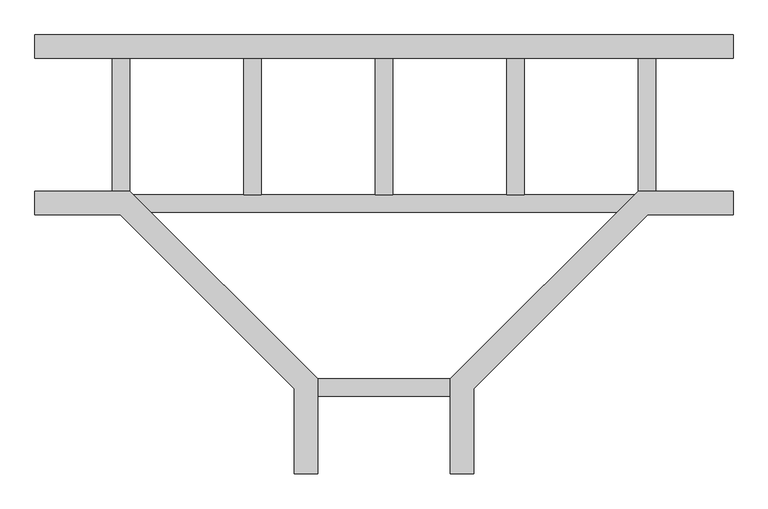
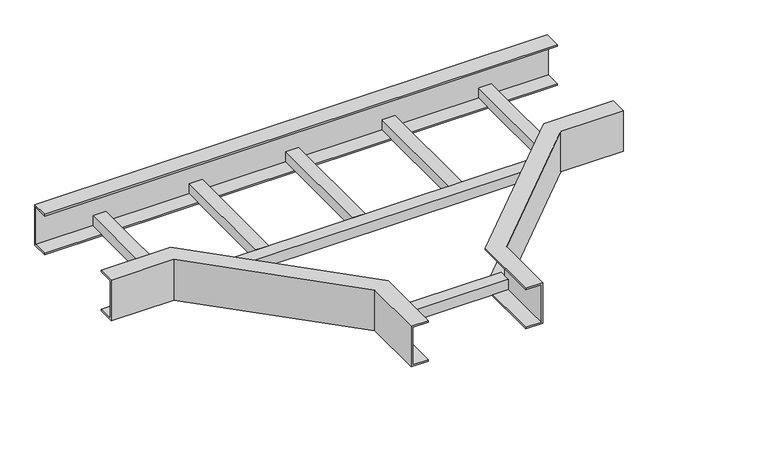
"""IFC4 building model written with IfcOpenShell, lengths in millimetres: cable carrier fitting geometry, TEEFV_Horizontal Tee-Fibertrav : Fibertrav TEEFV-12."""

from ifc_helpers import new_model, si_unit, frame, origin, place, context, project, spatial, polyline, outline, extrude, faceted_brep, source, transform, mapped, element, save


def cable_carrier_fitting_75f20afa(model_context):
    return source(origin(), model_context, "Body", "SolidModel", [
        faceted_brep([(-607.2, -156.4, -50.8), (-607.2, -156.4, 50.8), (-607.2, -115.4, 50.8), (-607.2, -115.4, 46.8), (-607.2, -152.4, 46.8), (-607.2, -152.4, -46.8), (-607.2, -115.4, -46.8), (-607.2, -115.4, -50.8), (-156.4, -607.2, -50.8), (-115.4, -607.2, -50.8), (-115.4, -607.2, -46.8), (-152.4, -607.2, -46.8), (-152.4, -607.2, 46.8), (-115.4, -607.2, 46.8), (-115.4, -607.2, 50.8), (-156.4, -607.2, 50.8), (-458.8568542, -156.4, 50.8), (-156.4, -458.8568542, 50.8), (-115.4, -441.8740982, 50.8), (-441.8740982, -115.4, 50.8), (-441.8740982, -115.4, 46.8), (-115.4, -441.8740982, 46.8), (-152.4, -457.2, 46.8), (-457.2, -152.4, 46.8), (-457.2, -152.4, -46.8), (-152.4, -457.2, -46.8), (-115.4, -441.8740982, -46.8), (-441.8740982, -115.4, -46.8), (-441.8740982, -115.4, -50.8), (-115.4, -441.8740982, -50.8), (-156.4, -458.8568542, -50.8), (-458.8568542, -156.4, -50.8)], [[[0, 1, 2, 3, 4, 5, 6, 7]], [[8, 9, 10, 11, 12, 13, 14, 15]], [[2, 1, 16, 17, 15, 14, 18, 19]], [[3, 2, 19, 20]], [[4, 3, 20, 21, 13, 12, 22, 23]], [[5, 4, 23, 24]], [[6, 5, 24, 25, 11, 10, 26, 27]], [[7, 6, 27, 28]], [[0, 7, 28, 29, 9, 8, 30, 31]], [[1, 0, 31, 16]], [[21, 18, 14, 13]], [[25, 22, 12, 11]], [[29, 26, 10, 9]], [[17, 30, 8, 15]], [[16, 31, 30, 17]], [[20, 19, 18, 21]], [[24, 23, 22, 25]], [[28, 27, 26, 29]]]),
        faceted_brep([(156.4, -607.2, -50.8), (156.4, -607.2, 50.8), (115.4, -607.2, 50.8), (115.4, -607.2, 46.8), (152.4, -607.2, 46.8), (152.4, -607.2, -46.8), (115.4, -607.2, -46.8), (115.4, -607.2, -50.8), (607.2, -156.4, -50.8), (607.2, -115.4, -50.8), (607.2, -115.4, -46.8), (607.2, -152.4, -46.8), (607.2, -152.4, 46.8), (607.2, -115.4, 46.8), (607.2, -115.4, 50.8), (607.2, -156.4, 50.8), (156.4, -458.8568542, 50.8), (458.8568542, -156.4, 50.8), (441.8740982, -115.4, 50.8), (115.4, -441.8740982, 50.8), (115.4, -441.8740982, 46.8), (441.8740982, -115.4, 46.8), (457.2, -152.4, 46.8), (152.4, -457.2, 46.8), (152.4, -457.2, -46.8), (457.2, -152.4, -46.8), (441.8740982, -115.4, -46.8), (115.4, -441.8740982, -46.8), (115.4, -441.8740982, -50.8), (441.8740982, -115.4, -50.8), (458.8568542, -156.4, -50.8), (156.4, -458.8568542, -50.8)], [[[0, 1, 2, 3, 4, 5, 6, 7]], [[8, 9, 10, 11, 12, 13, 14, 15]], [[2, 1, 16, 17, 15, 14, 18, 19]], [[3, 2, 19, 20]], [[4, 3, 20, 21, 13, 12, 22, 23]], [[5, 4, 23, 24]], [[6, 5, 24, 25, 11, 10, 26, 27]], [[7, 6, 27, 28]], [[0, 7, 28, 29, 9, 8, 30, 31]], [[1, 0, 31, 16]], [[21, 18, 14, 13]], [[25, 22, 12, 11]], [[29, 26, 10, 9]], [[17, 30, 8, 15]], [[16, 31, 30, 17]], [[20, 19, 18, 21]], [[24, 23, 22, 25]], [[28, 27, 26, 29]]]),
        extrude(outline(polyline([(156.4, -50.8), (115.4, -50.8), (115.4, -46.8), (152.4, -46.8), (152.4, 46.8), (115.4, 46.8), (115.4, 50.8), (156.4, 50.8), (156.4, -50.8)])), frame((-607.2, 0.0, 0.0), z_axis=(1.0, 0.0, 0.0), x_axis=(0.0, 1.0, 0.0)), (0.0, 0.0, 1.0), 1214.4),
        extrude(outline(polyline([(152.4, -472.45), (-152.4, -472.45), (-152.4, -441.95), (152.4, -441.95), (152.4, -472.45)])), frame((0.0, 0.0, -46.8), z_axis=(0.0, 0.0, 1.0), x_axis=(1.0, 0.0, 0.0)), (0.0, 0.0, 1.0), 25.4),
        extrude(outline(polyline([(472.45, 152.4), (472.45, -152.4), (441.95, -152.4), (441.95, 152.4), (472.45, 152.4)])), frame((0.0, 0.0, -46.8), z_axis=(0.0, 0.0, 1.0), x_axis=(1.0, 0.0, 0.0)), (0.0, 0.0, 1.0), 25.4),
        extrude(outline(polyline([(243.85, 152.4), (243.85, -121.9), (213.35, -121.9), (213.35, 152.4), (243.85, 152.4)])), frame((0.0, 0.0, -46.8), z_axis=(0.0, 0.0, 1.0), x_axis=(1.0, 0.0, 0.0)), (0.0, 0.0, 1.0), 25.4),
        extrude(outline(polyline([(15.25, 152.4), (15.25, -121.9), (-15.25, -121.9), (-15.25, 152.4), (15.25, 152.4)])), frame((0.0, 0.0, -46.8), z_axis=(0.0, 0.0, 1.0), x_axis=(1.0, 0.0, 0.0)), (0.0, 0.0, 1.0), 25.4),
        extrude(outline(polyline([(-213.35, 152.4), (-213.35, -121.9), (-243.85, -121.9), (-243.85, 152.4), (-213.35, 152.4)])), frame((0.0, 0.0, -46.8), z_axis=(0.0, 0.0, 1.0), x_axis=(1.0, 0.0, 0.0)), (0.0, 0.0, 1.0), 25.4),
        extrude(outline(polyline([(-441.95, 152.4), (-441.95, -152.4), (-472.45, -152.4), (-472.45, 152.4), (-441.95, 152.4)])), frame((0.0, 0.0, -46.8), z_axis=(0.0, 0.0, 1.0), x_axis=(1.0, 0.0, 0.0)), (0.0, 0.0, 1.0), 25.4),
        extrude(outline(polyline([(441.95, -152.4), (-441.95, -152.4), (-441.95, -121.9), (441.95, -121.9), (441.95, -152.4)])), frame((0.0, 0.0, -46.8), z_axis=(0.0, 0.0, 1.0), x_axis=(1.0, 0.0, 0.0)), (0.0, 0.0, 1.0), 25.4),
    ])


if __name__ == "__main__":
    model = new_model("IFC4")
    model_context = context("Model", 3, world=origin())
    ifc_project = project(units=[si_unit("LENGTHUNIT", "METRE", prefix="MILLI")], contexts=[model_context])
    site = spatial("IfcSite", under=ifc_project)
    building = spatial("IfcBuilding", under=site)
    placement = place(None, origin())
    cable_carrier_fitting_shape = cable_carrier_fitting_75f20afa(model_context)
    element("IfcCableCarrierFitting", 1, ObjectType="TEEFV_Horizontal Tee-Fibertrav : Fibertrav TEEFV-12", at=placement, inside=building, context=model_context, shape_type="MappedRepresentation", body=[
        mapped(cable_carrier_fitting_shape, transform((0.0, 0.0, 0.0), x_axis=(1.0, 0.0, 0.0), y_axis=(0.0, 1.0, 0.0), z_axis=(0.0, 0.0, 1.0))),
    ])
    save(model, "model.ifc")
